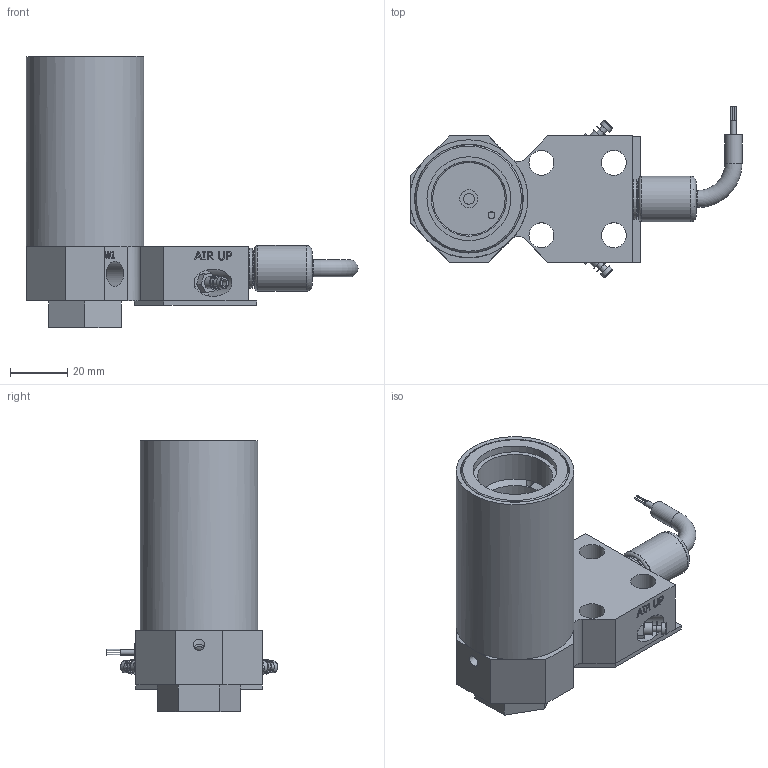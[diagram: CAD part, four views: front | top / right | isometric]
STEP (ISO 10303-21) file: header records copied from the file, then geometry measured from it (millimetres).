
FILE_DESCRIPTION(/* description */ ('ASSY,BODY,VF,LVDT,SXQR4,NHP_0001767705'),/* implementation_level */ '2;1');
FILE_NAME(/* name */ 'X:\ASSY,BODY,VF,LVDT,SXQR4,NHP_0001767705.stp',/* time_stamp */ '2021-04-13T13:04:11-04:00',/* author */ ('Tim.McWilliams'),/* organization */ (''),/* preprocessor_version */ 'ST-DEVELOPER v17',/* originating_system */ 'Autodesk Inventor 2019',/* authorisation */ '');
FILE_SCHEMA (('AUTOMOTIVE_DESIGN { 1 0 10303 214 3 1 1 }'));
Length unit declared in the file: inch
Products named in the file (1): ASSY,BODY,VF,LVDT,SXQR4,NHP
Bounding box: 116.32 x 60.05 x 95.12 mm (x, y, z)
Volume: 117785.2 mm3; surface area: 54773.1 mm2
Topology: 2 solids, 5 shells, 534 faces, 1438 edges, 954 vertices
Faces by surface type: plane 336, cylinder 83, bspline 56, cone 51, torus 8
Full cylindrical faces by diameter (mm): 0.5 x4, 2 x1, 2.381 x6, 3.175 x2, 3.81 x3, 3.962 x1, 3.969 x2, 4 x3, 4.064 x4, 4.216 x4, 5.556 x1, 6 x3, 6.35 x5, 7.95 x1, 8 x1, 8.731 x10, 9.525 x2, 10 x1, 12.7 x2, 13.716 x1, 14 x2, 15.206 x1, 15.875 x1, 16 x1, 16.272 x1, 25.4 x1, 26.289 x1, 29.369 x1, 35.103 x3, 37.846 x4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
Entity records: 18532 total; most frequent: CARTESIAN_POINT 4748, ORIENTED_EDGE 2852, DIRECTION 2511, EDGE_CURVE 1426, VERTEX_POINT 950, LINE 841, VECTOR 841, AXIS2_PLACEMENT_3D 835
